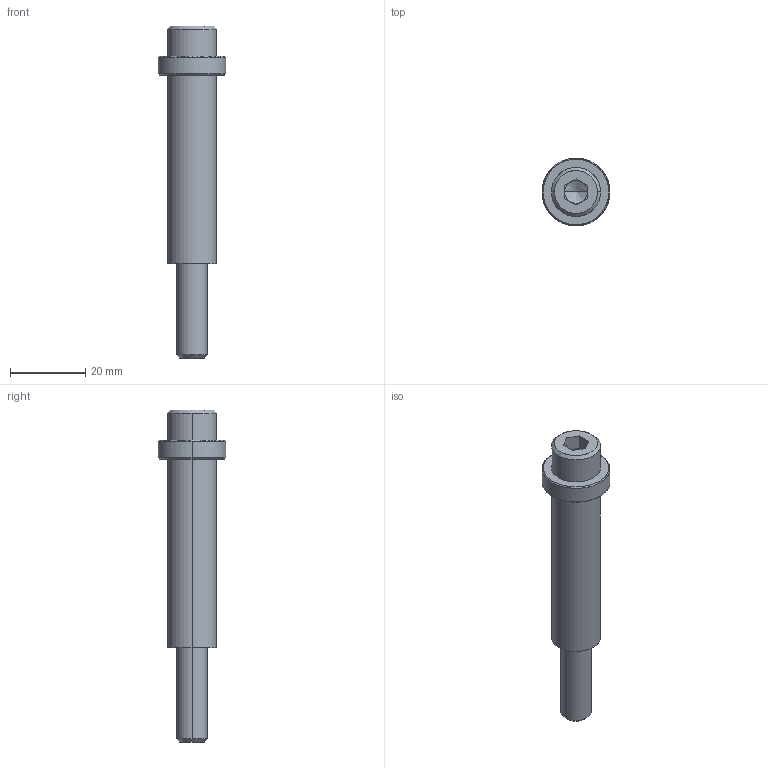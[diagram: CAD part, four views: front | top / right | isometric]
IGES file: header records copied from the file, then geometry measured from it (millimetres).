
Global section: file name: E:\UnigraphicsGraphicData\MISUMI_PRESS-PARTS\IGES\3d_sbth13-50-80_05160_r00.igs; native system: NX V5.0; preprocessor: UGS NX IGES V5.0; author: MISUMI; date: 20110105.162500; units: millimetre
Bounding box: 18 x 17.97 x 88 mm (x, y, z)
Surface area: 6893.2 mm2 (no closed solid volume)
Topology: 0 solids, 0 shells, 45 faces, 252 edges, 250 vertices
Faces by surface type: bspline 45
